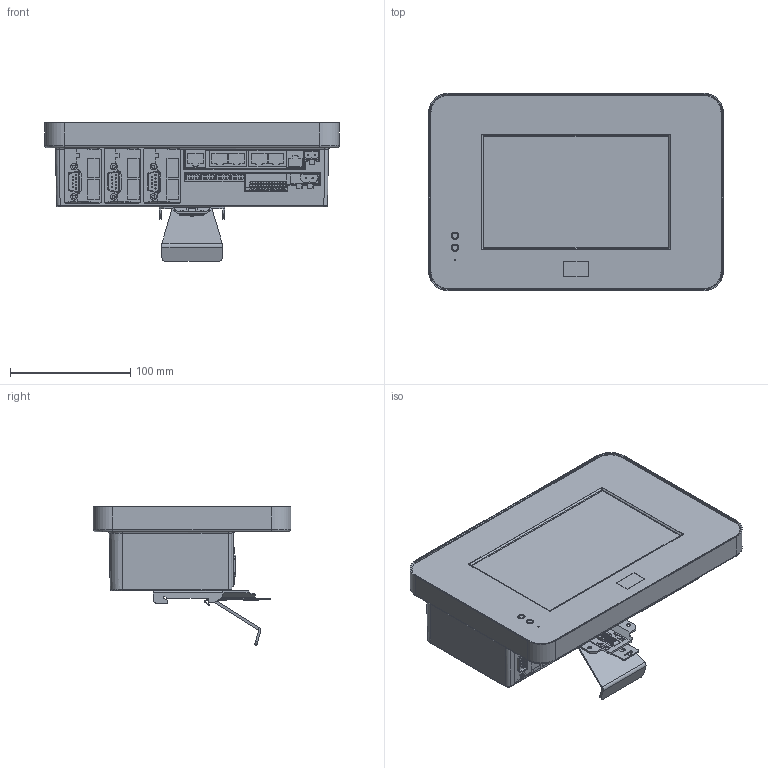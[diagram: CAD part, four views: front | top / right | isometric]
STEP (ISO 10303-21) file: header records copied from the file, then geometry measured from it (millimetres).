
FILE_DESCRIPTION(('Creo Elements/Direct Modeling STEP Export'),'2;1');
FILE_NAME('CMU2-1.stp','2022-06-15T 9:46:36',(''),(''),'PTC Creo Elements/Direct Modeling STEP processor for AP214 (Solid Model)','PTC Creo Elements/Direct Modeling 19.0 09-May-2014 (C) Parametric Technology GmbH','');
FILE_SCHEMA(('AUTOMOTIVE_DESIGN { 1 0 10303 214 1 1 1 1 }'));
Length unit declared in the file: millimetre
Products named in the file (58): a板; LCD-1_14.PRT; PCB_1_9.PRT; PHONE_JACK_2_2.PRT; PHONE_JACK_1_1.PRT; ME030-50-2_3.PRT.10; JS100107_1_1_ASM_3_PRT_1.PRT; HS112_1_ASM_2_PRT_1.PRT; EE_2_PRT_10_1.PRT.1; a1; c板; PCB_24_PRT_3.PRT; 20; _____2_2.PRT; EXTRUDED-183775_PRT_2.PRT; 703830480_ASM_ASM_1.ASM; EXTRUDED-180205_PRT_2.PRT; 703830960_ASM_ASM_1.ASM; EXTRUDED-177848_PRT_2.PRT; 1FF1-DH2L-04_2895032743_ASM_ASM.ASM; EXTRUDED-176218_PRT_2.PRT; 1FF1-DH2L-04_2931611402_ASM_ASM.ASM.15; EXTRUDED-174598_PRT_2.PRT; 1FF1-DH2L-04_2786087784_ASM_ASM.ASM; EXTRUDED-173914_PRT_2.PRT; 1FF1-DH2L-04_ASM_ASM_1.ASM; CN56_ASM_ASM_1.ASM; ME030-508_2.PRT; a2; b1板; CMU2-PCBD1_2.PRT; p3.1.1.1; SUB-9PIN.1; eeee; D; 44; p1.1; p1.1.3; p4; DDD_1.PRT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
Assembly tree (79 placements, depth 7):
  CMU2-單機
    ÝƒÛy.1
      p3.2
      ddd
    CMU2-ASM-20210701.stp
      ADMI1F042321JHOF.ASM
    CMU2-D-0811.stp
      CMU2-D-0811.prt
    p1.1.3  x3
    MSBO1351.1  x2
    CMU2-SINGLE-V3_ASM.stp
      CMU2-SINGLE-V3_ASM_43.ASM
        DIN_ASM_2.ASM
          M3螺母.1  x3
          M3螺母.3
          M3螺母.2
          M3螺母
          DIN_1_ASM_2.ASM
            DDD_1.PRT
    p4
    p1.1  x3
    a1
      44
      D  x3
        eeee
        SUB-9PIN.1
        p3.1.1.1
        CMU2-PCBD1_2.PRT
      b1板
        a2
          ME030-508_2.PRT
          CN56_ASM_ASM_1.ASM  x4
            1FF1-DH2L-04_ASM_ASM_1.ASM
              EXTRUDED-173914_PRT_2.PRT
            1FF1-DH2L-04_2786087784_ASM_ASM.ASM
              EXTRUDED-174598_PRT_2.PRT
            1FF1-DH2L-04_2931611402_ASM_ASM.ASM.15
              EXTRUDED-176218_PRT_2.PRT
            1FF1-DH2L-04_2895032743_ASM_ASM.ASM
              EXTRUDED-177848_PRT_2.PRT
            703830960_ASM_ASM_1.ASM
              EXTRUDED-180205_PRT_2.PRT
            703830480_ASM_ASM_1.ASM
              EXTRUDED-183775_PRT_2.PRT
          _____2_2.PRT
        20
        PCB_24_PRT_3.PRT
      c板
        a1
          EE_2_PRT_10_1.PRT.1
          HS112_1_ASM_2_PRT_1.PRT
          JS100107_1_1_ASM_3_PRT_1.PRT
          ME030-50-2_3.PRT.10
          PHONE_JACK_1_1.PRT  x2
          PHONE_JACK_2_2.PRT
        PCB_1_9.PRT
      LCD-1_14.PRT
      a板
Bounding box: 245 x 164.2 x 115.39 mm (x, y, z)
Volume: 580668.1 mm3; surface area: 498808.3 mm2
Topology: 101 solids, 103 shells, 3881 faces, 10653 edges, 6950 vertices
Faces by surface type: plane 2872, cylinder 677, cone 208, torus 80, bspline 28, sphere 16
Entity records: 192705 total; most frequent: CARTESIAN_POINT 133955, ORIENTED_EDGE 12392, DIRECTION 10984, EDGE_CURVE 6208, VECTOR 4502, LINE 4502, VERTEX_POINT 4026, AXIS2_PLACEMENT_3D 3241
